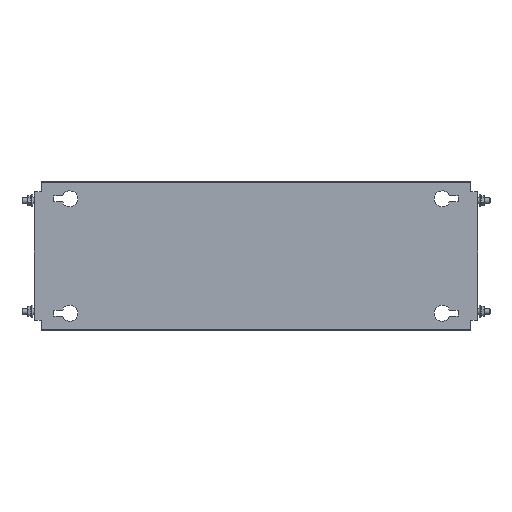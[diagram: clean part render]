
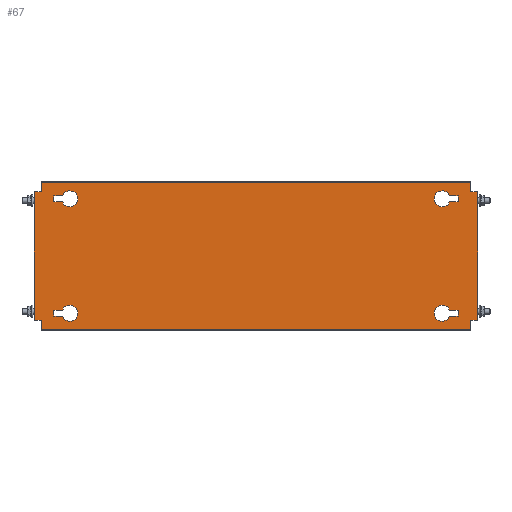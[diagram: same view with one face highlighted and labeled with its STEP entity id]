
A CAD part, top view. The second image highlights one B-rep face of the part: STEP entity #67.
In plain terms, the highlighted planar face has unit normal (0, 0, 1).
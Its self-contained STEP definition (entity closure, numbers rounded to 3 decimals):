
#67 = ADVANCED_FACE('',(#68,#103,#138,#300,#335),#370,.T.);
#68 = FACE_BOUND('',#69,.T.);
#69 = EDGE_LOOP('',(#70,#80,#88,#96));
#70 = ORIENTED_EDGE('',*,*,#71,.T.);
#71 = EDGE_CURVE('',#72,#74,#76,.T.);
#72 = VERTEX_POINT('',#73);
#73 = CARTESIAN_POINT('',(218.393,67.75,2.));
#74 = VERTEX_POINT('',#75);
#75 = CARTESIAN_POINT('',(228.,67.75,2.));
#76 = LINE('',#77,#78);
#77 = CARTESIAN_POINT('',(227.,67.75,2.));
#78 = VECTOR('',#79,1.);
#79 = DIRECTION('',(1.,0.,0.));
#80 = ORIENTED_EDGE('',*,*,#81,.T.);
#81 = EDGE_CURVE('',#74,#82,#84,.T.);
#82 = VERTEX_POINT('',#83);
#83 = CARTESIAN_POINT('',(228.,61.25,2.));
#84 = LINE('',#85,#86);
#85 = CARTESIAN_POINT('',(228.,67.75,2.));
#86 = VECTOR('',#87,1.);
#87 = DIRECTION('',(0.,-1.,0.));
#88 = ORIENTED_EDGE('',*,*,#89,.T.);
#89 = EDGE_CURVE('',#82,#90,#92,.T.);
#90 = VERTEX_POINT('',#91);
#91 = CARTESIAN_POINT('',(218.393,61.25,2.));
#92 = LINE('',#93,#94);
#93 = CARTESIAN_POINT('',(227.,61.25,2.));
#94 = VECTOR('',#95,1.);
#95 = DIRECTION('',(-1.,0.,0.));
#96 = ORIENTED_EDGE('',*,*,#97,.T.);
#97 = EDGE_CURVE('',#90,#72,#98,.T.);
#98 = CIRCLE('',#99,9.);
#99 = AXIS2_PLACEMENT_3D('',#100,#101,#102);
#100 = CARTESIAN_POINT('',(210.,64.5,2.));
#101 = DIRECTION('',(0.,0.,-1.));
#102 = DIRECTION('',(1.,0.,0.));
#103 = FACE_BOUND('',#104,.T.);
#104 = EDGE_LOOP('',(#105,#115,#123,#131));
#105 = ORIENTED_EDGE('',*,*,#106,.T.);
#106 = EDGE_CURVE('',#107,#109,#111,.T.);
#107 = VERTEX_POINT('',#108);
#108 = CARTESIAN_POINT('',(-218.393,-67.75,2.));
#109 = VERTEX_POINT('',#110);
#110 = CARTESIAN_POINT('',(-228.,-67.75,2.));
#111 = LINE('',#112,#113);
#112 = CARTESIAN_POINT('',(-227.,-67.75,2.));
#113 = VECTOR('',#114,1.);
#114 = DIRECTION('',(-1.,0.,0.));
#115 = ORIENTED_EDGE('',*,*,#116,.T.);
#116 = EDGE_CURVE('',#109,#117,#119,.T.);
#117 = VERTEX_POINT('',#118);
#118 = CARTESIAN_POINT('',(-228.,-61.25,2.));
#119 = LINE('',#120,#121);
#120 = CARTESIAN_POINT('',(-228.,-67.75,2.));
#121 = VECTOR('',#122,1.);
#122 = DIRECTION('',(0.,1.,0.));
#123 = ORIENTED_EDGE('',*,*,#124,.T.);
#124 = EDGE_CURVE('',#117,#125,#127,.T.);
#125 = VERTEX_POINT('',#126);
#126 = CARTESIAN_POINT('',(-218.393,-61.25,2.));
#127 = LINE('',#128,#129);
#128 = CARTESIAN_POINT('',(-227.,-61.25,2.));
#129 = VECTOR('',#130,1.);
#130 = DIRECTION('',(1.,0.,-0.));
#131 = ORIENTED_EDGE('',*,*,#132,.T.);
#132 = EDGE_CURVE('',#125,#107,#133,.T.);
#133 = CIRCLE('',#134,9.);
#134 = AXIS2_PLACEMENT_3D('',#135,#136,#137);
#135 = CARTESIAN_POINT('',(-210.,-64.5,2.));
#136 = DIRECTION('',(0.,0.,-1.));
#137 = DIRECTION('',(-1.,0.,0.));
#138 = FACE_BOUND('',#139,.T.);
#139 = EDGE_LOOP('',(#140,#150,#158,#166,#174,#182,#190,#198,#206,#214,
    #222,#230,#238,#246,#254,#262,#270,#278,#286,#294));
#140 = ORIENTED_EDGE('',*,*,#141,.F.);
#141 = EDGE_CURVE('',#142,#144,#146,.T.);
#142 = VERTEX_POINT('',#143);
#143 = CARTESIAN_POINT('',(-247.4,72.5,2.));
#144 = VERTEX_POINT('',#145);
#145 = CARTESIAN_POINT('',(-242.,72.5,2.));
#146 = LINE('',#147,#148);
#147 = CARTESIAN_POINT('',(-248.,72.5,2.));
#148 = VECTOR('',#149,1.);
#149 = DIRECTION('',(1.,0.,-0.));
#150 = ORIENTED_EDGE('',*,*,#151,.T.);
#151 = EDGE_CURVE('',#142,#152,#154,.T.);
#152 = VERTEX_POINT('',#153);
#153 = CARTESIAN_POINT('',(-250.,72.5,2.));
#154 = LINE('',#155,#156);
#155 = CARTESIAN_POINT('',(-247.4,72.5,2.));
#156 = VECTOR('',#157,1.);
#157 = DIRECTION('',(-1.,0.,0.));
#158 = ORIENTED_EDGE('',*,*,#159,.F.);
#159 = EDGE_CURVE('',#160,#152,#162,.T.);
#160 = VERTEX_POINT('',#161);
#161 = CARTESIAN_POINT('',(-250.,-72.5,2.));
#162 = LINE('',#163,#164);
#163 = CARTESIAN_POINT('',(-250.,-82.5,2.));
#164 = VECTOR('',#165,1.);
#165 = DIRECTION('',(-0.,1.,-0.));
#166 = ORIENTED_EDGE('',*,*,#167,.F.);
#167 = EDGE_CURVE('',#168,#160,#170,.T.);
#168 = VERTEX_POINT('',#169);
#169 = CARTESIAN_POINT('',(-247.4,-72.5,2.));
#170 = LINE('',#171,#172);
#171 = CARTESIAN_POINT('',(-242.,-72.5,2.));
#172 = VECTOR('',#173,1.);
#173 = DIRECTION('',(-1.,-0.,-0.));
#174 = ORIENTED_EDGE('',*,*,#175,.T.);
#175 = EDGE_CURVE('',#168,#176,#178,.T.);
#176 = VERTEX_POINT('',#177);
#177 = CARTESIAN_POINT('',(-242.,-72.5,2.));
#178 = LINE('',#179,#180);
#179 = CARTESIAN_POINT('',(-248.,-72.5,2.));
#180 = VECTOR('',#181,1.);
#181 = DIRECTION('',(1.,0.,-0.));
#182 = ORIENTED_EDGE('',*,*,#183,.T.);
#183 = EDGE_CURVE('',#176,#184,#186,.T.);
#184 = VERTEX_POINT('',#185);
#185 = CARTESIAN_POINT('',(-242.,-81.9,2.));
#186 = LINE('',#187,#188);
#187 = CARTESIAN_POINT('',(-242.,82.5,2.));
#188 = VECTOR('',#189,1.);
#189 = DIRECTION('',(0.,-1.,0.));
#190 = ORIENTED_EDGE('',*,*,#191,.T.);
#191 = EDGE_CURVE('',#184,#192,#194,.T.);
#192 = VERTEX_POINT('',#193);
#193 = CARTESIAN_POINT('',(-242.,-82.5,2.));
#194 = LINE('',#195,#196);
#195 = CARTESIAN_POINT('',(-242.,-81.9,2.));
#196 = VECTOR('',#197,1.);
#197 = DIRECTION('',(-0.,-1.,-0.));
#198 = ORIENTED_EDGE('',*,*,#199,.T.);
#199 = EDGE_CURVE('',#192,#200,#202,.T.);
#200 = VERTEX_POINT('',#201);
#201 = CARTESIAN_POINT('',(242.,-82.5,2.));
#202 = LINE('',#203,#204);
#203 = CARTESIAN_POINT('',(242.,-82.5,2.));
#204 = VECTOR('',#205,1.);
#205 = DIRECTION('',(1.,0.,0.));
#206 = ORIENTED_EDGE('',*,*,#207,.F.);
#207 = EDGE_CURVE('',#208,#200,#210,.T.);
#208 = VERTEX_POINT('',#209);
#209 = CARTESIAN_POINT('',(242.,-81.9,2.));
#210 = LINE('',#211,#212);
#211 = CARTESIAN_POINT('',(242.,-82.5,2.));
#212 = VECTOR('',#213,1.);
#213 = DIRECTION('',(0.,-1.,0.));
#214 = ORIENTED_EDGE('',*,*,#215,.T.);
#215 = EDGE_CURVE('',#208,#216,#218,.T.);
#216 = VERTEX_POINT('',#217);
#217 = CARTESIAN_POINT('',(242.,-72.5,2.));
#218 = LINE('',#219,#220);
#219 = CARTESIAN_POINT('',(242.,82.5,2.));
#220 = VECTOR('',#221,1.);
#221 = DIRECTION('',(0.,1.,-0.));
#222 = ORIENTED_EDGE('',*,*,#223,.F.);
#223 = EDGE_CURVE('',#224,#216,#226,.T.);
#224 = VERTEX_POINT('',#225);
#225 = CARTESIAN_POINT('',(247.4,-72.5,2.));
#226 = LINE('',#227,#228);
#227 = CARTESIAN_POINT('',(248.,-72.5,2.));
#228 = VECTOR('',#229,1.);
#229 = DIRECTION('',(-1.,0.,-0.));
#230 = ORIENTED_EDGE('',*,*,#231,.T.);
#231 = EDGE_CURVE('',#224,#232,#234,.T.);
#232 = VERTEX_POINT('',#233);
#233 = CARTESIAN_POINT('',(250.,-72.5,2.));
#234 = LINE('',#235,#236);
#235 = CARTESIAN_POINT('',(247.4,-72.5,2.));
#236 = VECTOR('',#237,1.);
#237 = DIRECTION('',(1.,-0.,0.));
#238 = ORIENTED_EDGE('',*,*,#239,.F.);
#239 = EDGE_CURVE('',#240,#232,#242,.T.);
#240 = VERTEX_POINT('',#241);
#241 = CARTESIAN_POINT('',(250.,72.5,2.));
#242 = LINE('',#243,#244);
#243 = CARTESIAN_POINT('',(250.,-82.5,2.));
#244 = VECTOR('',#245,1.);
#245 = DIRECTION('',(-0.,-1.,0.));
#246 = ORIENTED_EDGE('',*,*,#247,.F.);
#247 = EDGE_CURVE('',#248,#240,#250,.T.);
#248 = VERTEX_POINT('',#249);
#249 = CARTESIAN_POINT('',(247.4,72.5,2.));
#250 = LINE('',#251,#252);
#251 = CARTESIAN_POINT('',(-242.,72.5,2.));
#252 = VECTOR('',#253,1.);
#253 = DIRECTION('',(1.,-0.,0.));
#254 = ORIENTED_EDGE('',*,*,#255,.T.);
#255 = EDGE_CURVE('',#248,#256,#258,.T.);
#256 = VERTEX_POINT('',#257);
#257 = CARTESIAN_POINT('',(242.,72.5,2.));
#258 = LINE('',#259,#260);
#259 = CARTESIAN_POINT('',(248.,72.5,2.));
#260 = VECTOR('',#261,1.);
#261 = DIRECTION('',(-1.,0.,-0.));
#262 = ORIENTED_EDGE('',*,*,#263,.T.);
#263 = EDGE_CURVE('',#256,#264,#266,.T.);
#264 = VERTEX_POINT('',#265);
#265 = CARTESIAN_POINT('',(242.,81.9,2.));
#266 = LINE('',#267,#268);
#267 = CARTESIAN_POINT('',(242.,82.5,2.));
#268 = VECTOR('',#269,1.);
#269 = DIRECTION('',(0.,1.,-0.));
#270 = ORIENTED_EDGE('',*,*,#271,.T.);
#271 = EDGE_CURVE('',#264,#272,#274,.T.);
#272 = VERTEX_POINT('',#273);
#273 = CARTESIAN_POINT('',(242.,82.5,2.));
#274 = LINE('',#275,#276);
#275 = CARTESIAN_POINT('',(242.,81.9,2.));
#276 = VECTOR('',#277,1.);
#277 = DIRECTION('',(-0.,1.,-0.));
#278 = ORIENTED_EDGE('',*,*,#279,.T.);
#279 = EDGE_CURVE('',#272,#280,#282,.T.);
#280 = VERTEX_POINT('',#281);
#281 = CARTESIAN_POINT('',(-242.,82.5,2.));
#282 = LINE('',#283,#284);
#283 = CARTESIAN_POINT('',(-242.,82.5,2.));
#284 = VECTOR('',#285,1.);
#285 = DIRECTION('',(-1.,0.,0.));
#286 = ORIENTED_EDGE('',*,*,#287,.F.);
#287 = EDGE_CURVE('',#288,#280,#290,.T.);
#288 = VERTEX_POINT('',#289);
#289 = CARTESIAN_POINT('',(-242.,81.9,2.));
#290 = LINE('',#291,#292);
#291 = CARTESIAN_POINT('',(-242.,-82.5,2.));
#292 = VECTOR('',#293,1.);
#293 = DIRECTION('',(0.,1.,-0.));
#294 = ORIENTED_EDGE('',*,*,#295,.T.);
#295 = EDGE_CURVE('',#288,#144,#296,.T.);
#296 = LINE('',#297,#298);
#297 = CARTESIAN_POINT('',(-242.,82.5,2.));
#298 = VECTOR('',#299,1.);
#299 = DIRECTION('',(0.,-1.,0.));
#300 = FACE_BOUND('',#301,.T.);
#301 = EDGE_LOOP('',(#302,#312,#320,#328));
#302 = ORIENTED_EDGE('',*,*,#303,.F.);
#303 = EDGE_CURVE('',#304,#306,#308,.T.);
#304 = VERTEX_POINT('',#305);
#305 = CARTESIAN_POINT('',(228.,-61.25,2.));
#306 = VERTEX_POINT('',#307);
#307 = CARTESIAN_POINT('',(218.393,-61.25,2.));
#308 = LINE('',#309,#310);
#309 = CARTESIAN_POINT('',(218.393,-61.25,2.));
#310 = VECTOR('',#311,1.);
#311 = DIRECTION('',(-1.,0.,0.));
#312 = ORIENTED_EDGE('',*,*,#313,.F.);
#313 = EDGE_CURVE('',#314,#304,#316,.T.);
#314 = VERTEX_POINT('',#315);
#315 = CARTESIAN_POINT('',(228.,-67.75,2.));
#316 = LINE('',#317,#318);
#317 = CARTESIAN_POINT('',(228.,-61.25,2.));
#318 = VECTOR('',#319,1.);
#319 = DIRECTION('',(0.,1.,0.));
#320 = ORIENTED_EDGE('',*,*,#321,.F.);
#321 = EDGE_CURVE('',#322,#314,#324,.T.);
#322 = VERTEX_POINT('',#323);
#323 = CARTESIAN_POINT('',(218.393,-67.75,2.));
#324 = LINE('',#325,#326);
#325 = CARTESIAN_POINT('',(227.,-67.75,2.));
#326 = VECTOR('',#327,1.);
#327 = DIRECTION('',(1.,0.,0.));
#328 = ORIENTED_EDGE('',*,*,#329,.F.);
#329 = EDGE_CURVE('',#306,#322,#330,.T.);
#330 = CIRCLE('',#331,9.);
#331 = AXIS2_PLACEMENT_3D('',#332,#333,#334);
#332 = CARTESIAN_POINT('',(210.,-64.5,2.));
#333 = DIRECTION('',(0.,-0.,1.));
#334 = DIRECTION('',(1.,0.,0.));
#335 = FACE_BOUND('',#336,.T.);
#336 = EDGE_LOOP('',(#337,#347,#355,#363));
#337 = ORIENTED_EDGE('',*,*,#338,.F.);
#338 = EDGE_CURVE('',#339,#341,#343,.T.);
#339 = VERTEX_POINT('',#340);
#340 = CARTESIAN_POINT('',(-228.,61.25,2.));
#341 = VERTEX_POINT('',#342);
#342 = CARTESIAN_POINT('',(-218.393,61.25,2.));
#343 = LINE('',#344,#345);
#344 = CARTESIAN_POINT('',(-218.393,61.25,2.));
#345 = VECTOR('',#346,1.);
#346 = DIRECTION('',(1.,0.,0.));
#347 = ORIENTED_EDGE('',*,*,#348,.F.);
#348 = EDGE_CURVE('',#349,#339,#351,.T.);
#349 = VERTEX_POINT('',#350);
#350 = CARTESIAN_POINT('',(-228.,67.75,2.));
#351 = LINE('',#352,#353);
#352 = CARTESIAN_POINT('',(-228.,61.25,2.));
#353 = VECTOR('',#354,1.);
#354 = DIRECTION('',(0.,-1.,0.));
#355 = ORIENTED_EDGE('',*,*,#356,.F.);
#356 = EDGE_CURVE('',#357,#349,#359,.T.);
#357 = VERTEX_POINT('',#358);
#358 = CARTESIAN_POINT('',(-218.393,67.75,2.));
#359 = LINE('',#360,#361);
#360 = CARTESIAN_POINT('',(-227.,67.75,2.));
#361 = VECTOR('',#362,1.);
#362 = DIRECTION('',(-1.,0.,0.));
#363 = ORIENTED_EDGE('',*,*,#364,.F.);
#364 = EDGE_CURVE('',#341,#357,#365,.T.);
#365 = CIRCLE('',#366,9.);
#366 = AXIS2_PLACEMENT_3D('',#367,#368,#369);
#367 = CARTESIAN_POINT('',(-210.,64.5,2.));
#368 = DIRECTION('',(0.,-0.,1.));
#369 = DIRECTION('',(-1.,0.,0.));
#370 = PLANE('',#371);
#371 = AXIS2_PLACEMENT_3D('',#372,#373,#374);
#372 = CARTESIAN_POINT('',(-242.,-82.5,2.));
#373 = DIRECTION('',(-0.,0.,1.));
#374 = DIRECTION('',(1.,0.,0.));
